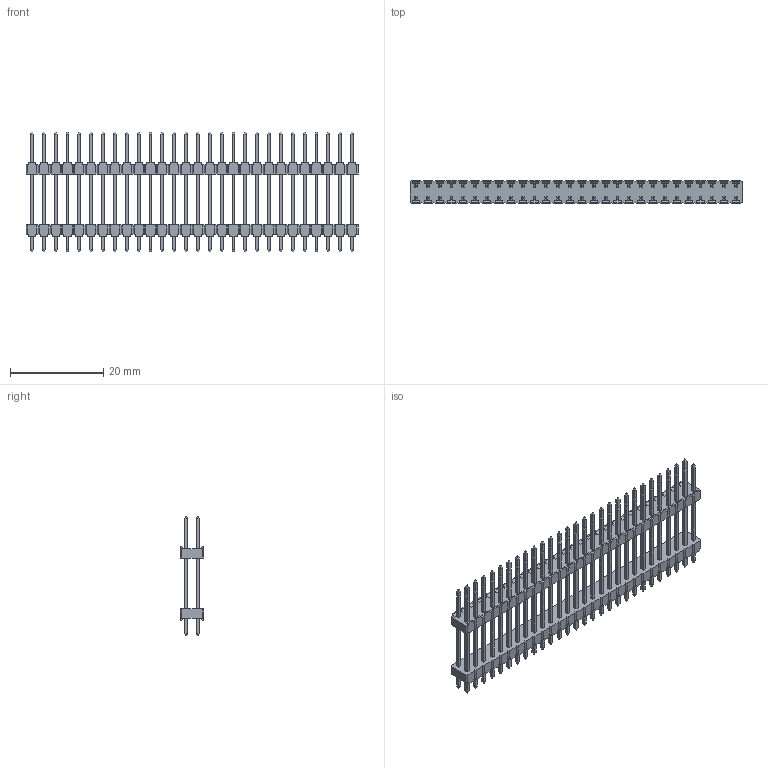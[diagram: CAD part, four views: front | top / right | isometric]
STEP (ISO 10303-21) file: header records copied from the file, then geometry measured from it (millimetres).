
FILE_DESCRIPTION(/* description */ (''),/* implementation_level */ '2;1');
FILE_NAME(/* name */ '961456-8040704-XX',/* time_stamp */ '2007-06-14T19:58:46+02:00',/* author */ (''),/* organization */ (''),/* preprocessor_version */ 'ST-DEVELOPER v9',/* originating_system */ 'UGS - NX 3.0',/* authorisation */ '');
FILE_SCHEMA (('AUTOMOTIVE_DESIGN { 1 0 10303 214 1 1 1 1 }'));
Length unit declared in the file: millimetre
Products named in the file (1): 961456-8040704-XX
Bounding box: 71.12 x 5 x 25.7 mm (x, y, z)
Volume: 1922 mm3; surface area: 5199.4 mm2
Topology: 1 solids, 1 shells, 2140 faces, 5624 edges, 3600 vertices
Faces by surface type: plane 2140
Entity records: 64168 total; most frequent: CARTESIAN_POINT 11365, ORIENTED_EDGE 11248, DIRECTION 9906, EDGE_CURVE 5624, LINE 5624, VECTOR 5624, VERTEX_POINT 3600, EDGE_LOOP 2364
